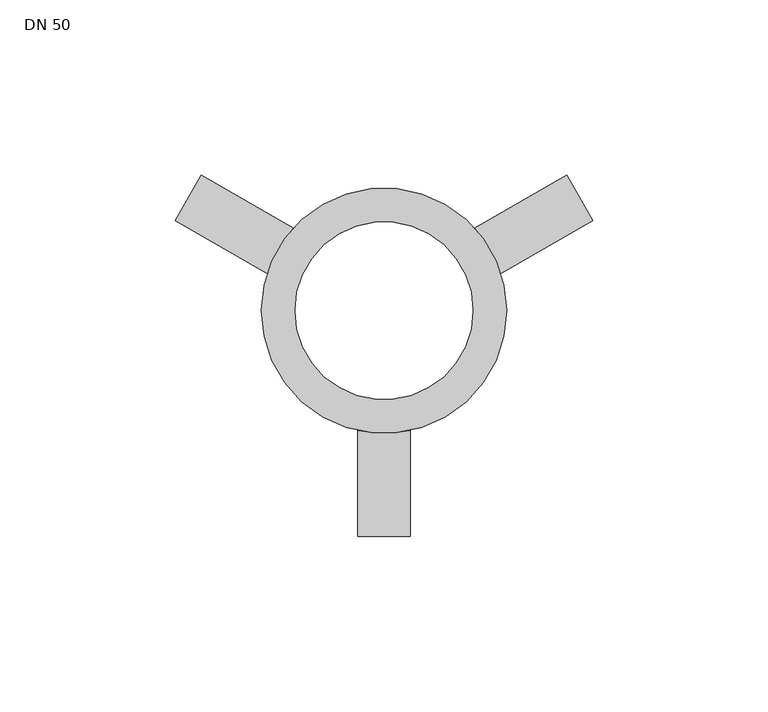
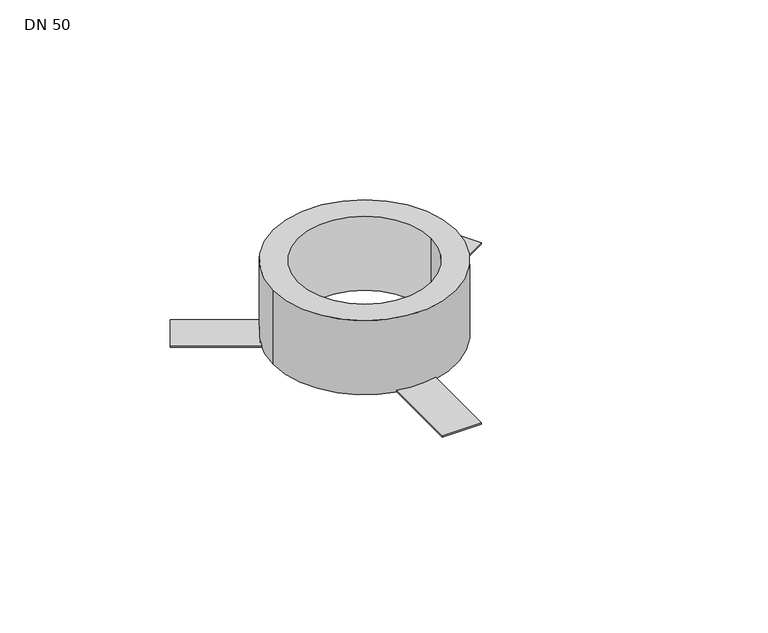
"""IFC4 building model written with IfcOpenShell, lengths in millimetres: proxy geometry, Wavin_SpecialtyEquipment_AsPlusFireCollarForCeilings : DN 50."""

from ifc_helpers import new_model, si_unit, point, origin, origin_with_axes, origin_2d, place, context, project, spatial, polyline, circle_curve, trimmed, segment, composite_curve, outline, extrude, source, transform, mapped, element, save


def dn_50_013501fe(model_context):
    return source(origin(), model_context, "Body", "SweptSolid", [
        extrude(outline(composite_curve([segment(polyline([(52.1086385, 38.7451905), (59.6086385, 25.7548095), (33.3567982, 10.5983024)]), True, "CONTINUOUS"), segment(trimmed(circle_curve(origin_2d(), 35.0), [point((33.3567982, 10.5983024))], [point((25.8567982, 23.5886834))], True, "CARTESIAN"), True, "CONTINUOUS"), segment(polyline([(25.8567982, 23.5886834), (52.1086385, 38.7451905)]), True, "CONTINUOUS")], self_intersect=False)), origin_with_axes(), (0.0, 0.0, 1.0), 0.6),
        extrude(outline(composite_curve([segment(polyline([(-59.6086385, 25.7548095), (-52.1086385, 38.7451905), (-25.8567982, 23.5886834)]), True, "CONTINUOUS"), segment(trimmed(circle_curve(origin_2d(), 35.0), [point((-25.8567982, 23.5886834))], [point((-33.3567982, 10.5983024))], True, "CARTESIAN"), True, "CONTINUOUS"), segment(polyline([(-33.3567982, 10.5983024), (-59.6086385, 25.7548095)]), True, "CONTINUOUS")], self_intersect=False)), origin_with_axes(), (0.0, 0.0, 1.0), 0.6),
        extrude(outline(composite_curve([segment(polyline([(7.5, -64.5), (-7.5, -64.5), (-7.5, -34.1869858)]), True, "CONTINUOUS"), segment(trimmed(circle_curve(origin_2d(), 35.0), [point((-7.5, -34.1869858))], [point((7.5, -34.1869858))], True, "CARTESIAN"), True, "CONTINUOUS"), segment(polyline([(7.5, -34.1869858), (7.5, -64.5)]), True, "CONTINUOUS")], self_intersect=False)), origin_with_axes(), (0.0, 0.0, 1.0), 0.6),
        extrude(outline(composite_curve([segment(trimmed(circle_curve(origin_2d(), 35.0), [point((-35.0, 0.0))], [point((35.0, 0.0))], False, "CARTESIAN"), True, "CONTINUOUS"), segment(trimmed(circle_curve(origin_2d(), 35.0), [point((35.0, 0.0))], [point((-35.0, 0.0))], False, "CARTESIAN"), True, "CONTINUOUS")], self_intersect=False), holes=[composite_curve([segment(trimmed(circle_curve(origin_2d(), 25.4), [point((-25.4, 0.0))], [point((25.4, 0.0))], True, "CARTESIAN"), True, "CONTINUOUS"), segment(trimmed(circle_curve(origin_2d(), 25.4), [point((25.4, 0.0))], [point((-25.4, 0.0))], True, "CARTESIAN"), True, "CONTINUOUS")], self_intersect=False)]), origin_with_axes(), (0.0, 0.0, 1.0), 30.0),
    ])


if __name__ == "__main__":
    model = new_model("IFC4")
    model_context = context("Model", 3, world=origin())
    ifc_project = project(units=[si_unit("LENGTHUNIT", "METRE", prefix="MILLI")], contexts=[model_context])
    site = spatial("IfcSite", under=ifc_project)
    building = spatial("IfcBuilding", under=site)
    placement = place(None, origin())
    dn_50_shape = dn_50_013501fe(model_context)
    element("IfcBuildingElementProxy", 1, Name="Wavin_SpecialtyEquipment_AsPlusFireCollarForCeilings : DN 50", ObjectType="Wavin_SpecialtyEquipment_AsPlusFireCollarForCeilings : DN 50", at=placement, inside=building, context=model_context, shape_type="MappedRepresentation", body=[
        mapped(dn_50_shape, transform((0.0, 0.0, 0.0), x_axis=(1.0, 0.0, 0.0), y_axis=(0.0, 1.0, 0.0), z_axis=(0.0, 0.0, 1.0))),
    ])
    save(model, "model.ifc")
